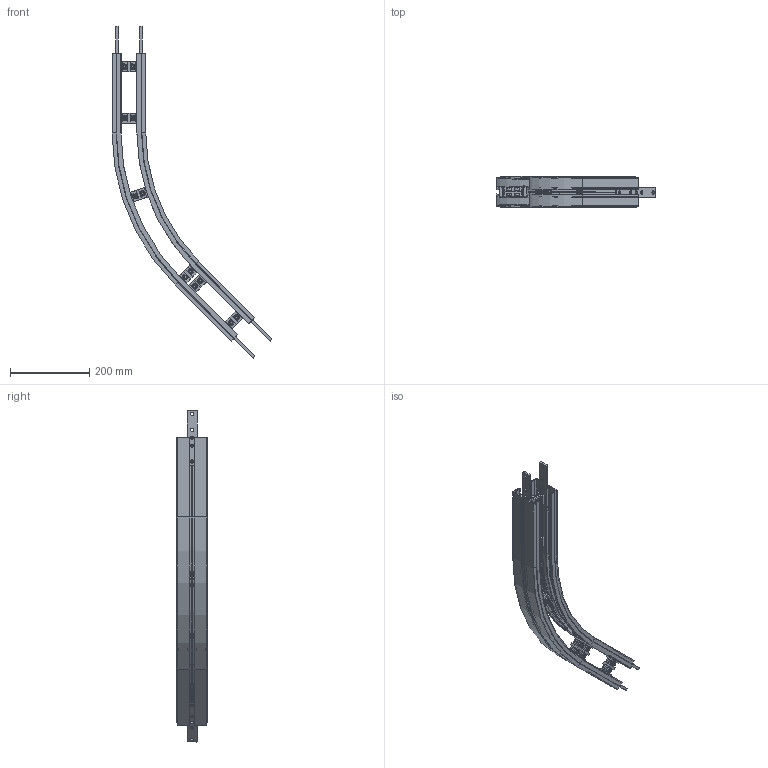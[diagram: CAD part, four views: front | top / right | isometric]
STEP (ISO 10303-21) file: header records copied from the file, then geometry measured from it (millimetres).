
FILE_DESCRIPTION (( 'STEP AP214' ), '1' );
FILE_NAME ('FMHB-45R500.STEP', '2012-04-03T13:12:04', ( 'gs' ), ( 'Microsoft' ), 'SwSTEP 2.0', 'SolidWorks 2011', '' );
FILE_SCHEMA (( 'AUTOMOTIVE_DESIGN' ));
Length unit declared in the file: millimetre
Products named in the file (8): Clamp Flex_FMHB - CLP; Ecrou bague frein; vis CHC  lg23 ; Clamp_FM; FASR-25 U. FMSLDPRT_45R500; FACS-25.éclisse larg 25mm_Default; FMHB R500_45R500; FMHB-45R500
Assembly tree (19 placements, depth 3):
  FMHB-45R500
    FACS-25.éclisse larg 25mm_Default  x4
    Clamp Flex_FMHB - CLP  x6
      Clamp_FM
      Ecrou bague frein
      vis CHC  lg23 
    FMHB R500_45R500
    FASR-25 U. FMSLDPRT_45R500  x2
Bounding box: 403.2 x 76.99 x 837.79 mm (x, y, z)
Volume: 898943.1 mm3; surface area: 885101.1 mm2
Topology: 50 solids, 50 shells, 2223 faces, 5477 edges, 3150 vertices
Faces by surface type: plane 892, cylinder 768, sphere 168, torus 161, bspline 144, cone 90
Entity records: 20205 total; most frequent: CARTESIAN_POINT 3716, DIRECTION 3403, ORIENTED_EDGE 3288, EDGE_CURVE 1644, AXIS2_PLACEMENT_3D 1142, VECTOR 1119, LINE 1119, VERTEX_POINT 1047
